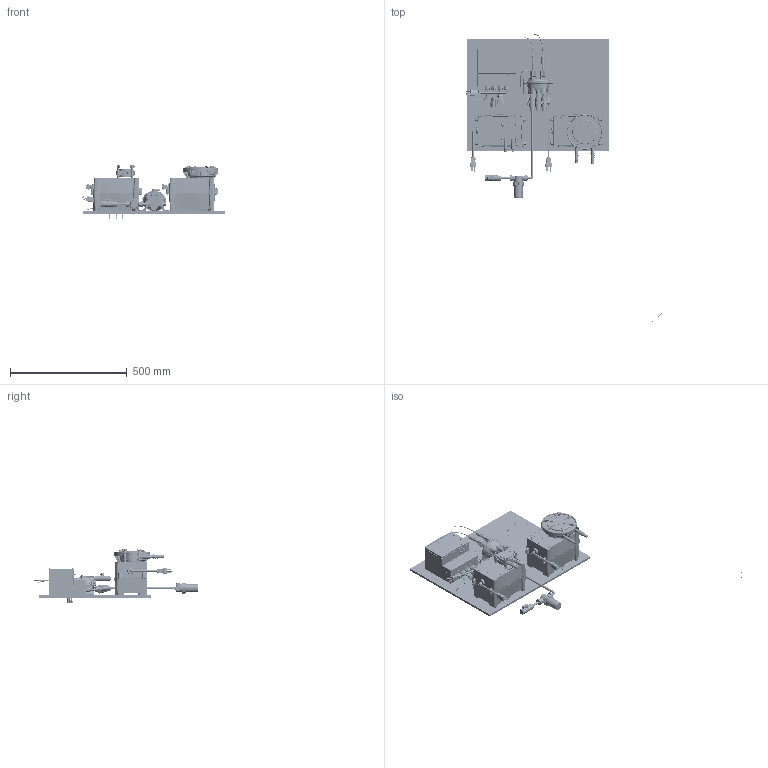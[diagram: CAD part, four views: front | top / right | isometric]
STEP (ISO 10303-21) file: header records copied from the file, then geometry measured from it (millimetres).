
FILE_DESCRIPTION (( 'STEP AP214' ), '1' );
FILE_NAME ('Board Style G 1-14-2020.STEP', '2020-01-14T23:01:27', ( '' ), ( '' ), 'SwSTEP 2.0', 'SolidWorks 2019', '' );
FILE_SCHEMA (( 'AUTOMOTIVE_DESIGN' ));
Length unit declared in the file: inch
Products named in the file (1): Board Style G 1-14-2020
Bounding box: 1005.52 x 1355.01 x 233.39 mm (x, y, z)
Volume: 450539.5 mm3; surface area: 1690106.3 mm2
Topology: 18 solids, 19 shells, 10169 faces, 26357 edges, 16607 vertices
Faces by surface type: plane 4157, bspline 2313, cylinder 2247, torus 759, cone 572, sphere 121
Entity records: 562608 total; most frequent: CARTESIAN_POINT 253726, ORIENTED_EDGE 52492, DIRECTION 41741, EDGE_CURVE 26246, VERTEX_POINT 16613, AXIS2_PLACEMENT_3D 14622, VECTOR 12497, LINE 12497
